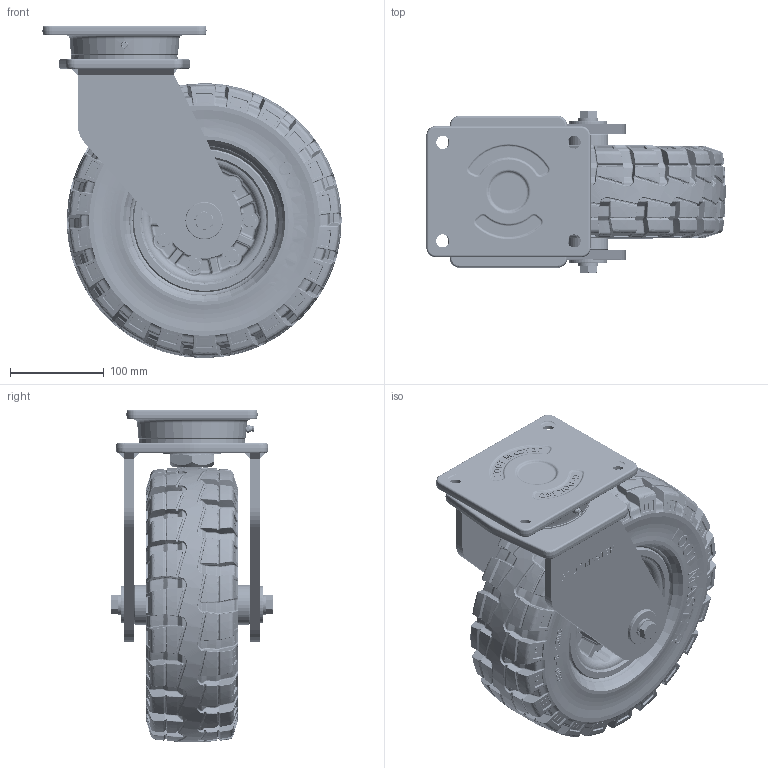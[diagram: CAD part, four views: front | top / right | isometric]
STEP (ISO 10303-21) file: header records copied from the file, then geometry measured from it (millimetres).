
FILE_DESCRIPTION(/* description */ (''),/* implementation_level */ '2;1');
FILE_NAME(/* name */ '\\192.168.10.38\지덕공유\1.기술연구소\2.연구개발 진행중\121.Solidtire caster_2024.11.22\제품설계\3D\홈페이지용\1.GT-300-ASF-TRD.stp',/* time_stamp */ '2025-09-01T09:40:44+09:00',/* author */ ('admin'),/* organization */ (''),/* preprocessor_version */ 'ST-DEVELOPER v18.1',/* originating_system */ 'Autodesk Inventor 2021',/* authorisation */ '');
FILE_SCHEMA (('AUTOMOTIVE_DESIGN { 1 0 10303 214 3 1 1 }'));
Products named in the file (1): 1.GT-300-ASF-TIRE-Rev01_2025.07.18_Shrinkwrap_1
Bounding box: 319 x 173 x 353.97 mm (x, y, z)
Volume: 6720128 mm3; surface area: 495125 mm2
Topology: 1 solids, 1 shells, 9757 faces, 23851 edges, 14365 vertices
Faces by surface type: bspline 5768, plane 1741, cylinder 753, torus 637, cone 605, sphere 253
Full cylindrical faces by diameter (mm): 6 x1, 8 x9, 12.5 x7, 14 x4, 17 x5, 40 x2, 42.7 x2, 62.5 x1, 113 x1, 114 x1, 160 x2
Entity records: 402892 total; most frequent: CARTESIAN_POINT 203058, ORIENTED_EDGE 47586, DIRECTION 26188, EDGE_CURVE 23793, VERTEX_POINT 14365, B_SPLINE_CURVE_WITH_KNOTS 11645, AXIS2_PLACEMENT_3D 10718, EDGE_LOOP 10098
